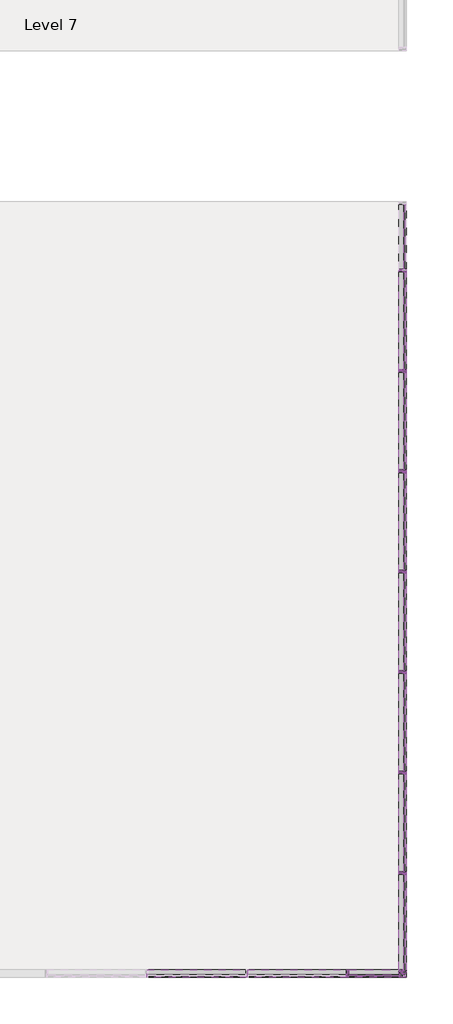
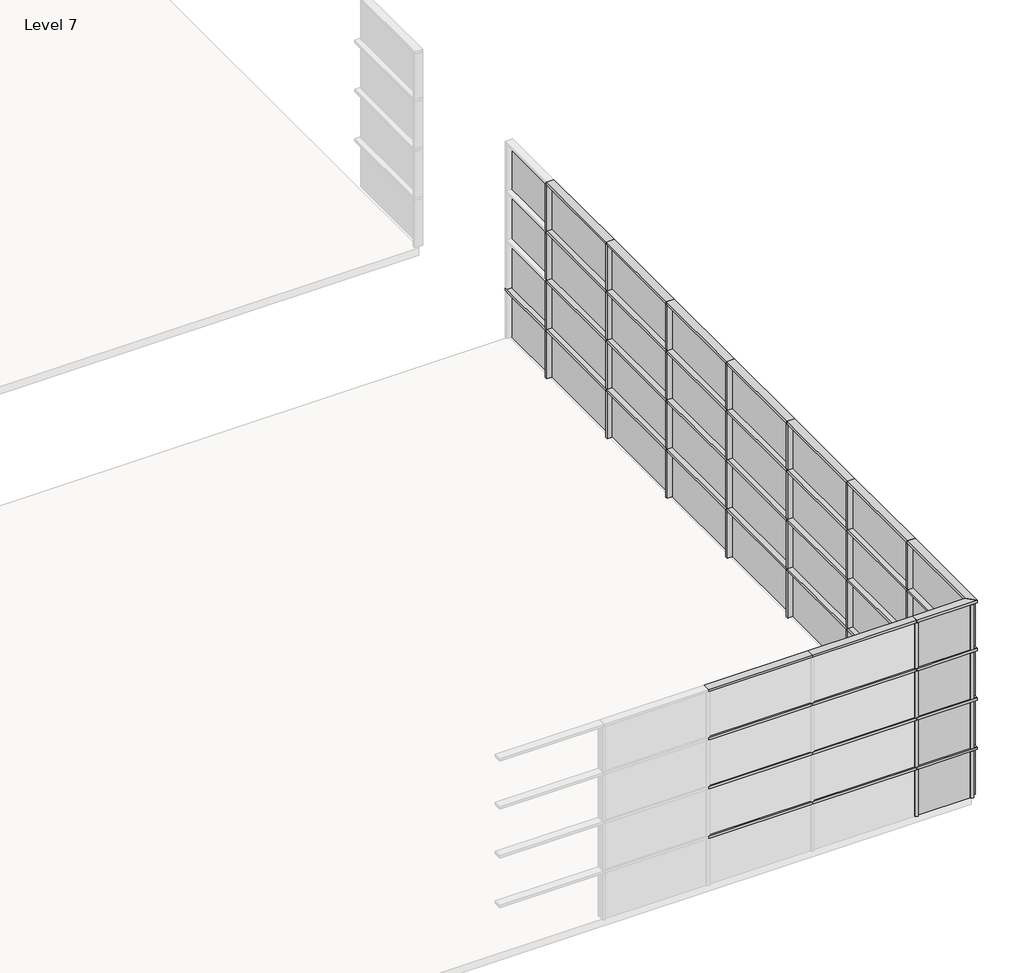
# One storey, part 3 of 5: 81 members, 36 plates.
"""IFC4 building model written with IfcOpenShell, lengths in millimetres."""

from ifc_helpers import new_model, si_unit, origin, place, context, project, spatial, transform, mapped, element, save
from components import rectangular_mullion_50_x_150mm_a053b0ca, rectangular_mullion_50_x_150mm_116cff39, rectangular_mullion_50_x_150mm_aa47fe12, rectangular_mullion_50_x_150mm_3a148f0f, rectangular_mullion_50_x_150mm_a91aaa2b, rectangular_mullion_50_x_150mm_12a430f9, rectangular_mullion_50_x_150mm_5fc4eb71, rectangular_mullion_50_x_150mm_98c2ab41, rectangular_mullion_50_x_150mm_947845bb, rectangular_mullion_50_x_150mm_f68fa77e, rectangular_mullion_50_x_150mm_274d1a55, system_panel_glazed_92d57a36, system_panel_glazed_751a585c, system_panel_glazed_28c32ad2, system_panel_glazed_08de6f5f, system_panel_glazed_5611fd39, system_panel_glazed_3987acf4, system_panel_glazed_42f259ca, system_panel_glazed_8ec8f306

model = new_model("IFC4")

# Units and contexts
model_context = context("Model", 3, world=origin())
ifc_project = project(units=[si_unit("LENGTHUNIT", "METRE", prefix="MILLI")], contexts=[model_context])

# Site, building, storey
site = spatial("IfcSite", under=ifc_project)
building = spatial("IfcBuilding", under=site)
storey = spatial("IfcBuildingStorey", under=building, Name="Level 7", Elevation=24000.0)

# Members
placement = place(None, origin())
rectangular_mullion_50_x_150mm_shape = rectangular_mullion_50_x_150mm_a053b0ca(model_context)
element("IfcMember", 1, ObjectType="Rectangular Mullion : 50 x 150mm", at=placement, inside=storey, context=model_context, shape_type="MappedRepresentation", body=[
    mapped(rectangular_mullion_50_x_150mm_shape, transform((12412.826594, -21988.7417365, 24025.0), x_axis=(1.0, 0.0, 0.0), y_axis=(0.0, -1.0, 0.0), z_axis=(0.0, 0.0, -0.9999999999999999))),
])
element("IfcMember", 2, ObjectType="Rectangular Mullion : 50 x 150mm", at=placement, inside=storey, context=model_context, shape_type="MappedRepresentation", body=[
    mapped(rectangular_mullion_50_x_150mm_shape, transform((12412.826594, -21988.7417365, 25025.0), x_axis=(1.0, 0.0, 0.0), y_axis=(0.0, -1.0, 0.0), z_axis=(0.0, 0.0, -0.9999999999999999))),
])
element("IfcMember", 3, ObjectType="Rectangular Mullion : 50 x 150mm", at=placement, inside=storey, context=model_context, shape_type="MappedRepresentation", body=[
    mapped(rectangular_mullion_50_x_150mm_shape, transform((12412.826594, -21988.7417365, 26025.0), x_axis=(1.0, 0.0, 0.0), y_axis=(0.0, -1.0, 0.0), z_axis=(0.0, 0.0, -0.9999999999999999))),
])
element("IfcMember", 4, ObjectType="Rectangular Mullion : 50 x 150mm", at=placement, inside=storey, context=model_context, shape_type="MappedRepresentation", body=[
    mapped(rectangular_mullion_50_x_150mm_shape, transform((13503.2660975, -13988.7417365, 24025.0), x_axis=(0.0, 1.0, 0.0), y_axis=(1.0, 0.0, 0.0), z_axis=(0.0, 0.0, -0.9999999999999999))),
])
element("IfcMember", 5, ObjectType="Rectangular Mullion : 50 x 150mm", at=placement, inside=storey, context=model_context, shape_type="MappedRepresentation", body=[
    mapped(rectangular_mullion_50_x_150mm_shape, transform((13503.2660975, -13988.7417365, 25025.0), x_axis=(0.0, 1.0, 0.0), y_axis=(1.0, 0.0, 0.0), z_axis=(0.0, 0.0, -0.9999999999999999))),
])
element("IfcMember", 6, ObjectType="Rectangular Mullion : 50 x 150mm", at=placement, inside=storey, context=model_context, shape_type="MappedRepresentation", body=[
    mapped(rectangular_mullion_50_x_150mm_shape, transform((13503.2660975, -13988.7417365, 26025.0), x_axis=(0.0, 1.0, 0.0), y_axis=(1.0, 0.0, 0.0), z_axis=(0.0, 0.0, -0.9999999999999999))),
])
element("IfcMember", 7, ObjectType="Rectangular Mullion : 50 x 150mm", at=placement, inside=storey, context=model_context, shape_type="MappedRepresentation", body=[
    mapped(rectangular_mullion_50_x_150mm_shape, transform((13503.2660975, -11988.7417365, 24025.0), x_axis=(0.0, 1.0, 0.0), y_axis=(1.0, 0.0, 0.0), z_axis=(0.0, 0.0, -0.9999999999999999))),
])
element("IfcMember", 8, ObjectType="Rectangular Mullion : 50 x 150mm", at=placement, inside=storey, context=model_context, shape_type="MappedRepresentation", body=[
    mapped(rectangular_mullion_50_x_150mm_shape, transform((13503.2660975, -11988.7417365, 25025.0), x_axis=(0.0, 1.0, 0.0), y_axis=(1.0, 0.0, 0.0), z_axis=(0.0, 0.0, -0.9999999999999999))),
])
element("IfcMember", 9, ObjectType="Rectangular Mullion : 50 x 150mm", at=placement, inside=storey, context=model_context, shape_type="MappedRepresentation", body=[
    mapped(rectangular_mullion_50_x_150mm_shape, transform((13503.2660975, -11988.7417365, 26025.0), x_axis=(0.0, 1.0, 0.0), y_axis=(1.0, 0.0, 0.0), z_axis=(0.0, 0.0, -0.9999999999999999))),
])
element("IfcMember", 10, ObjectType="Rectangular Mullion : 50 x 150mm", at=placement, inside=storey, context=model_context, shape_type="MappedRepresentation", body=[
    mapped(rectangular_mullion_50_x_150mm_shape, transform((13503.2660975, -9988.7417365, 24025.0), x_axis=(0.0, 1.0, 0.0), y_axis=(1.0, 0.0, 0.0), z_axis=(0.0, 0.0, -0.9999999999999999))),
])
element("IfcMember", 11, ObjectType="Rectangular Mullion : 50 x 150mm", at=placement, inside=storey, context=model_context, shape_type="MappedRepresentation", body=[
    mapped(rectangular_mullion_50_x_150mm_shape, transform((13503.2660975, -9988.7417365, 25025.0), x_axis=(0.0, 1.0, 0.0), y_axis=(1.0, 0.0, 0.0), z_axis=(0.0, 0.0, -0.9999999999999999))),
])
element("IfcMember", 12, ObjectType="Rectangular Mullion : 50 x 150mm", at=placement, inside=storey, context=model_context, shape_type="MappedRepresentation", body=[
    mapped(rectangular_mullion_50_x_150mm_shape, transform((13503.2660975, -9988.7417365, 26025.0), x_axis=(0.0, 1.0, 0.0), y_axis=(1.0, 0.0, 0.0), z_axis=(0.0, 0.0, -0.9999999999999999))),
])
element("IfcMember", 13, ObjectType="Rectangular Mullion : 50 x 150mm", at=placement, inside=storey, context=model_context, shape_type="MappedRepresentation", body=[
    mapped(rectangular_mullion_50_x_150mm_shape, transform((13503.2660975, -7988.7417365, 24025.0), x_axis=(0.0, 1.0, 0.0), y_axis=(1.0, 0.0, 0.0), z_axis=(0.0, 0.0, -0.9999999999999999))),
])
element("IfcMember", 14, ObjectType="Rectangular Mullion : 50 x 150mm", at=placement, inside=storey, context=model_context, shape_type="MappedRepresentation", body=[
    mapped(rectangular_mullion_50_x_150mm_shape, transform((13503.2660975, -7988.7417365, 25025.0), x_axis=(0.0, 1.0, 0.0), y_axis=(1.0, 0.0, 0.0), z_axis=(0.0, 0.0, -0.9999999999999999))),
])
element("IfcMember", 15, ObjectType="Rectangular Mullion : 50 x 150mm", at=placement, inside=storey, context=model_context, shape_type="MappedRepresentation", body=[
    mapped(rectangular_mullion_50_x_150mm_shape, transform((13503.2660975, -7988.7417365, 26025.0), x_axis=(0.0, 1.0, 0.0), y_axis=(1.0, 0.0, 0.0), z_axis=(0.0, 0.0, -0.9999999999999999))),
])
element("IfcMember", 16, ObjectType="Rectangular Mullion : 50 x 150mm", at=placement, inside=storey, context=model_context, shape_type="MappedRepresentation", body=[
    mapped(rectangular_mullion_50_x_150mm_shape, transform((13503.2660975, -19988.7417365, 24025.0), x_axis=(0.0, 1.0, 0.0), y_axis=(1.0, 0.0, 0.0), z_axis=(0.0, 0.0, -0.9999999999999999))),
])
element("IfcMember", 17, ObjectType="Rectangular Mullion : 50 x 150mm", at=placement, inside=storey, context=model_context, shape_type="MappedRepresentation", body=[
    mapped(rectangular_mullion_50_x_150mm_shape, transform((13503.2660975, -19988.7417365, 25025.0), x_axis=(0.0, 1.0, 0.0), y_axis=(1.0, 0.0, 0.0), z_axis=(0.0, 0.0, -0.9999999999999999))),
])
element("IfcMember", 18, ObjectType="Rectangular Mullion : 50 x 150mm", at=placement, inside=storey, context=model_context, shape_type="MappedRepresentation", body=[
    mapped(rectangular_mullion_50_x_150mm_shape, transform((13503.2660975, -17988.7417365, 24025.0), x_axis=(0.0, 1.0, 0.0), y_axis=(1.0, 0.0, 0.0), z_axis=(0.0, 0.0, -0.9999999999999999))),
])
element("IfcMember", 19, ObjectType="Rectangular Mullion : 50 x 150mm", at=placement, inside=storey, context=model_context, shape_type="MappedRepresentation", body=[
    mapped(rectangular_mullion_50_x_150mm_shape, transform((13503.2660975, -17988.7417365, 25025.0), x_axis=(0.0, 1.0, 0.0), y_axis=(1.0, 0.0, 0.0), z_axis=(0.0, 0.0, -0.9999999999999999))),
])
element("IfcMember", 20, ObjectType="Rectangular Mullion : 50 x 150mm", at=placement, inside=storey, context=model_context, shape_type="MappedRepresentation", body=[
    mapped(rectangular_mullion_50_x_150mm_shape, transform((13503.2660975, -17988.7417365, 26025.0), x_axis=(0.0, 1.0, 0.0), y_axis=(1.0, 0.0, 0.0), z_axis=(0.0, 0.0, -0.9999999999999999))),
])
element("IfcMember", 21, ObjectType="Rectangular Mullion : 50 x 150mm", at=placement, inside=storey, context=model_context, shape_type="MappedRepresentation", body=[
    mapped(rectangular_mullion_50_x_150mm_shape, transform((13503.2660975, -15988.7417365, 24025.0), x_axis=(0.0, 1.0, 0.0), y_axis=(1.0, 0.0, 0.0), z_axis=(0.0, 0.0, -0.9999999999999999))),
])
element("IfcMember", 22, ObjectType="Rectangular Mullion : 50 x 150mm", at=placement, inside=storey, context=model_context, shape_type="MappedRepresentation", body=[
    mapped(rectangular_mullion_50_x_150mm_shape, transform((13503.2660975, -15988.7417365, 25025.0), x_axis=(0.0, 1.0, 0.0), y_axis=(1.0, 0.0, 0.0), z_axis=(0.0, 0.0, -0.9999999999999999))),
])
element("IfcMember", 23, ObjectType="Rectangular Mullion : 50 x 150mm", at=placement, inside=storey, context=model_context, shape_type="MappedRepresentation", body=[
    mapped(rectangular_mullion_50_x_150mm_shape, transform((13503.2660975, -15988.7417365, 26025.0), x_axis=(0.0, 1.0, 0.0), y_axis=(1.0, 0.0, 0.0), z_axis=(0.0, 0.0, -0.9999999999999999))),
])
element("IfcMember", 24, ObjectType="Rectangular Mullion : 50 x 150mm", at=placement, inside=storey, context=model_context, shape_type="MappedRepresentation", body=[
    mapped(rectangular_mullion_50_x_150mm_shape, transform((13503.2660975, -19988.7417365, 26025.0), x_axis=(0.0, 1.0, 0.0), y_axis=(1.0, 0.0, 0.0), z_axis=(0.0, 0.0, -0.9999999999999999))),
])
rectangular_mullion_50_x_150mm_2_shape = rectangular_mullion_50_x_150mm_116cff39(model_context)
element("IfcMember", 25, ObjectType="Rectangular Mullion : 50 x 150mm", at=placement, inside=storey, context=model_context, shape_type="MappedRepresentation", body=[
    mapped(rectangular_mullion_50_x_150mm_2_shape, transform((12412.826594, -21988.7417365, 27025.0), x_axis=(1.0, 0.0, 0.0), y_axis=(0.0, -1.0, 0.0), z_axis=(0.0, 0.0, -1.0))),
])
element("IfcMember", 26, ObjectType="Rectangular Mullion : 50 x 150mm", at=placement, inside=storey, context=model_context, shape_type="MappedRepresentation", body=[
    mapped(rectangular_mullion_50_x_150mm_2_shape, transform((13503.2660975, -13988.7417365, 27025.0), x_axis=(0.0, 1.0, 0.0), y_axis=(1.0, 0.0, 0.0), z_axis=(0.0, 0.0, -1.0))),
])
element("IfcMember", 27, ObjectType="Rectangular Mullion : 50 x 150mm", at=placement, inside=storey, context=model_context, shape_type="MappedRepresentation", body=[
    mapped(rectangular_mullion_50_x_150mm_2_shape, transform((13503.2660975, -11988.7417365, 27025.0), x_axis=(0.0, 1.0, 0.0), y_axis=(1.0, 0.0, 0.0), z_axis=(0.0, 0.0, -1.0))),
])
element("IfcMember", 28, ObjectType="Rectangular Mullion : 50 x 150mm", at=placement, inside=storey, context=model_context, shape_type="MappedRepresentation", body=[
    mapped(rectangular_mullion_50_x_150mm_2_shape, transform((13503.2660975, -9988.7417365, 27025.0), x_axis=(0.0, 1.0, 0.0), y_axis=(1.0, 0.0, 0.0), z_axis=(0.0, 0.0, -1.0))),
])
element("IfcMember", 29, ObjectType="Rectangular Mullion : 50 x 150mm", at=placement, inside=storey, context=model_context, shape_type="MappedRepresentation", body=[
    mapped(rectangular_mullion_50_x_150mm_2_shape, transform((13503.2660975, -7988.7417365, 27025.0), x_axis=(0.0, 1.0, 0.0), y_axis=(1.0, 0.0, 0.0), z_axis=(0.0, 0.0, -1.0))),
])
element("IfcMember", 30, ObjectType="Rectangular Mullion : 50 x 150mm", at=placement, inside=storey, context=model_context, shape_type="MappedRepresentation", body=[
    mapped(rectangular_mullion_50_x_150mm_2_shape, transform((13503.2660975, -17988.7417365, 27025.0), x_axis=(0.0, 1.0, 0.0), y_axis=(1.0, 0.0, 0.0), z_axis=(0.0, 0.0, -1.0))),
])
element("IfcMember", 31, ObjectType="Rectangular Mullion : 50 x 150mm", at=placement, inside=storey, context=model_context, shape_type="MappedRepresentation", body=[
    mapped(rectangular_mullion_50_x_150mm_2_shape, transform((13503.2660975, -15988.7417365, 27025.0), x_axis=(0.0, 1.0, 0.0), y_axis=(1.0, 0.0, 0.0), z_axis=(0.0, 0.0, -1.0))),
])
element("IfcMember", 32, ObjectType="Rectangular Mullion : 50 x 150mm", at=placement, inside=storey, context=model_context, shape_type="MappedRepresentation", body=[
    mapped(rectangular_mullion_50_x_150mm_2_shape, transform((13503.2660975, -19988.7417365, 27025.0), x_axis=(0.0, 1.0, 0.0), y_axis=(1.0, 0.0, 0.0), z_axis=(0.0, 0.0, -1.0))),
])
rectangular_mullion_50_x_150mm_3_shape = rectangular_mullion_50_x_150mm_aa47fe12(model_context)
element("IfcMember", 33, ObjectType="Rectangular Mullion : 50 x 150mm", at=placement, inside=storey, context=model_context, shape_type="MappedRepresentation", body=[
    mapped(rectangular_mullion_50_x_150mm_3_shape, transform((10412.826594, -21988.7417365, 28000.0), x_axis=(0.0, 0.0, 1.0), y_axis=(0.0, -1.0, 0.0), z_axis=(1.0, 0.0, 0.0))),
])
element("IfcMember", 34, ObjectType="Rectangular Mullion : 50 x 150mm", at=placement, inside=storey, context=model_context, shape_type="MappedRepresentation", body=[
    mapped(rectangular_mullion_50_x_150mm_3_shape, transform((12412.826594, -21988.7417365, 28000.0), x_axis=(0.0, 0.0, 1.0), y_axis=(0.0, -1.0, 0.0), z_axis=(1.0, 0.0, 0.0))),
])
element("IfcMember", 35, ObjectType="Rectangular Mullion : 50 x 150mm", at=placement, inside=storey, context=model_context, shape_type="MappedRepresentation", body=[
    mapped(rectangular_mullion_50_x_150mm_3_shape, transform((13503.2660975, -17988.7417365, 28000.0), x_axis=(0.0, 0.0, 1.0), y_axis=(1.0, 0.0, 0.0), z_axis=(0.0, 1.0, 0.0))),
])
element("IfcMember", 36, ObjectType="Rectangular Mullion : 50 x 150mm", at=placement, inside=storey, context=model_context, shape_type="MappedRepresentation", body=[
    mapped(rectangular_mullion_50_x_150mm_3_shape, transform((13503.2660975, -15988.7417365, 28000.0), x_axis=(0.0, 0.0, 1.0), y_axis=(1.0, 0.0, 0.0), z_axis=(0.0, 1.0, 0.0))),
])
element("IfcMember", 37, ObjectType="Rectangular Mullion : 50 x 150mm", at=placement, inside=storey, context=model_context, shape_type="MappedRepresentation", body=[
    mapped(rectangular_mullion_50_x_150mm_3_shape, transform((13503.2660975, -13988.7417365, 28000.0), x_axis=(0.0, 0.0, 1.0), y_axis=(1.0, 0.0, 0.0), z_axis=(0.0, 1.0, 0.0))),
])
element("IfcMember", 38, ObjectType="Rectangular Mullion : 50 x 150mm", at=placement, inside=storey, context=model_context, shape_type="MappedRepresentation", body=[
    mapped(rectangular_mullion_50_x_150mm_3_shape, transform((13503.2660975, -11988.7417365, 28000.0), x_axis=(0.0, 0.0, 1.0), y_axis=(1.0, 0.0, 0.0), z_axis=(0.0, 1.0, 0.0))),
])
element("IfcMember", 39, ObjectType="Rectangular Mullion : 50 x 150mm", at=placement, inside=storey, context=model_context, shape_type="MappedRepresentation", body=[
    mapped(rectangular_mullion_50_x_150mm_3_shape, transform((13503.2660975, -9988.7417365, 28000.0), x_axis=(0.0, 0.0, 1.0), y_axis=(1.0, 0.0, 0.0), z_axis=(0.0, 1.0, 0.0))),
])
element("IfcMember", 40, ObjectType="Rectangular Mullion : 50 x 150mm", at=placement, inside=storey, context=model_context, shape_type="MappedRepresentation", body=[
    mapped(rectangular_mullion_50_x_150mm_3_shape, transform((13503.2660975, -7988.7417365, 28000.0), x_axis=(0.0, 0.0, 1.0), y_axis=(1.0, 0.0, 0.0), z_axis=(0.0, 1.0, 0.0))),
])
rectangular_mullion_50_x_150mm_4_shape = rectangular_mullion_50_x_150mm_3a148f0f(model_context)
element("IfcMember", 41, ObjectType="Rectangular Mullion : 50 x 150mm", at=placement, inside=storey, context=model_context, shape_type="MappedRepresentation", body=[
    mapped(rectangular_mullion_50_x_150mm_4_shape, transform((10412.826594, -21988.7417365, 25000.0), x_axis=(0.0, 0.0, 1.0), y_axis=(0.0, -1.0, 0.0), z_axis=(1.0, 0.0, 0.0))),
])
element("IfcMember", 42, ObjectType="Rectangular Mullion : 50 x 150mm", at=placement, inside=storey, context=model_context, shape_type="MappedRepresentation", body=[
    mapped(rectangular_mullion_50_x_150mm_4_shape, transform((12412.826594, -21988.7417365, 25000.0), x_axis=(0.0, 0.0, 1.0), y_axis=(0.0, -1.0, 0.0), z_axis=(1.0, 0.0, 0.0))),
])
element("IfcMember", 43, ObjectType="Rectangular Mullion : 50 x 150mm", at=placement, inside=storey, context=model_context, shape_type="MappedRepresentation", body=[
    mapped(rectangular_mullion_50_x_150mm_4_shape, transform((10412.826594, -21988.7417365, 26000.0), x_axis=(0.0, 0.0, 1.0), y_axis=(0.0, -1.0, 0.0), z_axis=(1.0, 0.0, 0.0))),
])
element("IfcMember", 44, ObjectType="Rectangular Mullion : 50 x 150mm", at=placement, inside=storey, context=model_context, shape_type="MappedRepresentation", body=[
    mapped(rectangular_mullion_50_x_150mm_4_shape, transform((12412.826594, -21988.7417365, 26000.0), x_axis=(0.0, 0.0, 1.0), y_axis=(0.0, -1.0, 0.0), z_axis=(1.0, 0.0, 0.0))),
])
element("IfcMember", 45, ObjectType="Rectangular Mullion : 50 x 150mm", at=placement, inside=storey, context=model_context, shape_type="MappedRepresentation", body=[
    mapped(rectangular_mullion_50_x_150mm_4_shape, transform((10412.826594, -21988.7417365, 27000.0), x_axis=(0.0, 0.0, 1.0), y_axis=(0.0, -1.0, 0.0), z_axis=(1.0, 0.0, 0.0))),
])
element("IfcMember", 46, ObjectType="Rectangular Mullion : 50 x 150mm", at=placement, inside=storey, context=model_context, shape_type="MappedRepresentation", body=[
    mapped(rectangular_mullion_50_x_150mm_4_shape, transform((12412.826594, -21988.7417365, 27000.0), x_axis=(0.0, 0.0, 1.0), y_axis=(0.0, -1.0, 0.0), z_axis=(1.0, 0.0, 0.0))),
])
element("IfcMember", 47, ObjectType="Rectangular Mullion : 50 x 150mm", at=placement, inside=storey, context=model_context, shape_type="MappedRepresentation", body=[
    mapped(rectangular_mullion_50_x_150mm_4_shape, transform((13503.2660975, -17988.7417365, 25000.0), x_axis=(0.0, 0.0, 1.0), y_axis=(1.0, 0.0, 0.0), z_axis=(0.0, 1.0, 0.0))),
])
element("IfcMember", 48, ObjectType="Rectangular Mullion : 50 x 150mm", at=placement, inside=storey, context=model_context, shape_type="MappedRepresentation", body=[
    mapped(rectangular_mullion_50_x_150mm_4_shape, transform((13503.2660975, -15988.7417365, 25000.0), x_axis=(0.0, 0.0, 1.0), y_axis=(1.0, 0.0, 0.0), z_axis=(0.0, 1.0, 0.0))),
])
element("IfcMember", 49, ObjectType="Rectangular Mullion : 50 x 150mm", at=placement, inside=storey, context=model_context, shape_type="MappedRepresentation", body=[
    mapped(rectangular_mullion_50_x_150mm_4_shape, transform((13503.2660975, -13988.7417365, 25000.0), x_axis=(0.0, 0.0, 1.0), y_axis=(1.0, 0.0, 0.0), z_axis=(0.0, 1.0, 0.0))),
])
element("IfcMember", 50, ObjectType="Rectangular Mullion : 50 x 150mm", at=placement, inside=storey, context=model_context, shape_type="MappedRepresentation", body=[
    mapped(rectangular_mullion_50_x_150mm_4_shape, transform((13503.2660975, -11988.7417365, 25000.0), x_axis=(0.0, 0.0, 1.0), y_axis=(1.0, 0.0, 0.0), z_axis=(0.0, 1.0, 0.0))),
])
element("IfcMember", 51, ObjectType="Rectangular Mullion : 50 x 150mm", at=placement, inside=storey, context=model_context, shape_type="MappedRepresentation", body=[
    mapped(rectangular_mullion_50_x_150mm_4_shape, transform((13503.2660975, -9988.7417365, 25000.0), x_axis=(0.0, 0.0, 1.0), y_axis=(1.0, 0.0, 0.0), z_axis=(0.0, 1.0, 0.0))),
])
element("IfcMember", 52, ObjectType="Rectangular Mullion : 50 x 150mm", at=placement, inside=storey, context=model_context, shape_type="MappedRepresentation", body=[
    mapped(rectangular_mullion_50_x_150mm_4_shape, transform((13503.2660975, -7988.7417365, 25000.0), x_axis=(0.0, 0.0, 1.0), y_axis=(1.0, 0.0, 0.0), z_axis=(0.0, 1.0, 0.0))),
])
element("IfcMember", 53, ObjectType="Rectangular Mullion : 50 x 150mm", at=placement, inside=storey, context=model_context, shape_type="MappedRepresentation", body=[
    mapped(rectangular_mullion_50_x_150mm_4_shape, transform((13503.2660975, -17988.7417365, 26000.0), x_axis=(0.0, 0.0, 1.0), y_axis=(1.0, 0.0, 0.0), z_axis=(0.0, 1.0, 0.0))),
])
element("IfcMember", 54, ObjectType="Rectangular Mullion : 50 x 150mm", at=placement, inside=storey, context=model_context, shape_type="MappedRepresentation", body=[
    mapped(rectangular_mullion_50_x_150mm_4_shape, transform((13503.2660975, -15988.7417365, 26000.0), x_axis=(0.0, 0.0, 1.0), y_axis=(1.0, 0.0, 0.0), z_axis=(0.0, 1.0, 0.0))),
])
element("IfcMember", 55, ObjectType="Rectangular Mullion : 50 x 150mm", at=placement, inside=storey, context=model_context, shape_type="MappedRepresentation", body=[
    mapped(rectangular_mullion_50_x_150mm_4_shape, transform((13503.2660975, -13988.7417365, 26000.0), x_axis=(0.0, 0.0, 1.0), y_axis=(1.0, 0.0, 0.0), z_axis=(0.0, 1.0, 0.0))),
])
element("IfcMember", 56, ObjectType="Rectangular Mullion : 50 x 150mm", at=placement, inside=storey, context=model_context, shape_type="MappedRepresentation", body=[
    mapped(rectangular_mullion_50_x_150mm_4_shape, transform((13503.2660975, -11988.7417365, 26000.0), x_axis=(0.0, 0.0, 1.0), y_axis=(1.0, 0.0, 0.0), z_axis=(0.0, 1.0, 0.0))),
])
element("IfcMember", 57, ObjectType="Rectangular Mullion : 50 x 150mm", at=placement, inside=storey, context=model_context, shape_type="MappedRepresentation", body=[
    mapped(rectangular_mullion_50_x_150mm_4_shape, transform((13503.2660975, -9988.7417365, 26000.0), x_axis=(0.0, 0.0, 1.0), y_axis=(1.0, 0.0, 0.0), z_axis=(0.0, 1.0, 0.0))),
])
element("IfcMember", 58, ObjectType="Rectangular Mullion : 50 x 150mm", at=placement, inside=storey, context=model_context, shape_type="MappedRepresentation", body=[
    mapped(rectangular_mullion_50_x_150mm_4_shape, transform((13503.2660975, -7988.7417365, 26000.0), x_axis=(0.0, 0.0, 1.0), y_axis=(1.0, 0.0, 0.0), z_axis=(0.0, 1.0, 0.0))),
])
element("IfcMember", 59, ObjectType="Rectangular Mullion : 50 x 150mm", at=placement, inside=storey, context=model_context, shape_type="MappedRepresentation", body=[
    mapped(rectangular_mullion_50_x_150mm_4_shape, transform((13503.2660975, -17988.7417365, 27000.0), x_axis=(0.0, 0.0, 1.0), y_axis=(1.0, 0.0, 0.0), z_axis=(0.0, 1.0, 0.0))),
])
element("IfcMember", 60, ObjectType="Rectangular Mullion : 50 x 150mm", at=placement, inside=storey, context=model_context, shape_type="MappedRepresentation", body=[
    mapped(rectangular_mullion_50_x_150mm_4_shape, transform((13503.2660975, -15988.7417365, 27000.0), x_axis=(0.0, 0.0, 1.0), y_axis=(1.0, 0.0, 0.0), z_axis=(0.0, 1.0, 0.0))),
])
element("IfcMember", 61, ObjectType="Rectangular Mullion : 50 x 150mm", at=placement, inside=storey, context=model_context, shape_type="MappedRepresentation", body=[
    mapped(rectangular_mullion_50_x_150mm_4_shape, transform((13503.2660975, -13988.7417365, 27000.0), x_axis=(0.0, 0.0, 1.0), y_axis=(1.0, 0.0, 0.0), z_axis=(0.0, 1.0, 0.0))),
])
element("IfcMember", 62, ObjectType="Rectangular Mullion : 50 x 150mm", at=placement, inside=storey, context=model_context, shape_type="MappedRepresentation", body=[
    mapped(rectangular_mullion_50_x_150mm_4_shape, transform((13503.2660975, -11988.7417365, 27000.0), x_axis=(0.0, 0.0, 1.0), y_axis=(1.0, 0.0, 0.0), z_axis=(0.0, 1.0, 0.0))),
])
element("IfcMember", 63, ObjectType="Rectangular Mullion : 50 x 150mm", at=placement, inside=storey, context=model_context, shape_type="MappedRepresentation", body=[
    mapped(rectangular_mullion_50_x_150mm_4_shape, transform((13503.2660975, -9988.7417365, 27000.0), x_axis=(0.0, 0.0, 1.0), y_axis=(1.0, 0.0, 0.0), z_axis=(0.0, 1.0, 0.0))),
])
element("IfcMember", 64, ObjectType="Rectangular Mullion : 50 x 150mm", at=placement, inside=storey, context=model_context, shape_type="MappedRepresentation", body=[
    mapped(rectangular_mullion_50_x_150mm_4_shape, transform((13503.2660975, -7988.7417365, 27000.0), x_axis=(0.0, 0.0, 1.0), y_axis=(1.0, 0.0, 0.0), z_axis=(0.0, 1.0, 0.0))),
])
rectangular_mullion_50_x_150mm_5_shape = rectangular_mullion_50_x_150mm_a91aaa2b(model_context)
element("IfcMember", 65, ObjectType="Rectangular Mullion : 50 x 150mm", at=placement, inside=storey, context=model_context, shape_type="MappedRepresentation", body=[
    mapped(rectangular_mullion_50_x_150mm_5_shape, transform((13503.2660975, -21988.7417365, 27950.0), x_axis=(0.0, -1.0, 0.0), y_axis=(1.0, 0.0, 0.0), z_axis=(0.0, 0.0, 1.0))),
])
rectangular_mullion_50_x_150mm_6_shape = rectangular_mullion_50_x_150mm_12a430f9(model_context)
element("IfcMember", 66, ObjectType="Rectangular Mullion : 50 x 150mm", at=placement, inside=storey, context=model_context, shape_type="MappedRepresentation", body=[
    mapped(rectangular_mullion_50_x_150mm_6_shape, transform((13503.2660975, -21988.7417365, 24975.0), x_axis=(0.0, -1.0, 0.0), y_axis=(1.0, 0.0, 0.0), z_axis=(0.0, 0.0, 0.9999999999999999))),
])
element("IfcMember", 67, ObjectType="Rectangular Mullion : 50 x 150mm", at=placement, inside=storey, context=model_context, shape_type="MappedRepresentation", body=[
    mapped(rectangular_mullion_50_x_150mm_6_shape, transform((13503.2660975, -21988.7417365, 25975.0), x_axis=(0.0, -1.0, 0.0), y_axis=(1.0, 0.0, 0.0), z_axis=(0.0, 0.0, 0.9999999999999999))),
])
element("IfcMember", 68, ObjectType="Rectangular Mullion : 50 x 150mm", at=placement, inside=storey, context=model_context, shape_type="MappedRepresentation", body=[
    mapped(rectangular_mullion_50_x_150mm_6_shape, transform((13503.2660975, -21988.7417365, 26975.0), x_axis=(0.0, -1.0, 0.0), y_axis=(1.0, 0.0, 0.0), z_axis=(0.0, 0.0, 0.9999999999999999))),
])
element("IfcMember", 69, ObjectType="Rectangular Mullion : 50 x 150mm", at=placement, inside=storey, context=model_context, shape_type="MappedRepresentation", body=[
    mapped(rectangular_mullion_50_x_150mm_6_shape, transform((13503.2660975, -21988.7417365, 24025.0), x_axis=(1.0, 0.0, 0.0), y_axis=(0.0, -1.0, 0.0), z_axis=(0.0, 0.0, -0.9999999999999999))),
])
element("IfcMember", 70, ObjectType="Rectangular Mullion : 50 x 150mm", at=placement, inside=storey, context=model_context, shape_type="MappedRepresentation", body=[
    mapped(rectangular_mullion_50_x_150mm_6_shape, transform((13503.2660975, -21988.7417365, 25025.0), x_axis=(1.0, 0.0, 0.0), y_axis=(0.0, -1.0, 0.0), z_axis=(0.0, 0.0, -0.9999999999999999))),
])
element("IfcMember", 71, ObjectType="Rectangular Mullion : 50 x 150mm", at=placement, inside=storey, context=model_context, shape_type="MappedRepresentation", body=[
    mapped(rectangular_mullion_50_x_150mm_6_shape, transform((13503.2660975, -21988.7417365, 26025.0), x_axis=(1.0, 0.0, 0.0), y_axis=(0.0, -1.0, 0.0), z_axis=(0.0, 0.0, -0.9999999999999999))),
])
element("IfcMember", 72, ObjectType="Rectangular Mullion : 50 x 150mm", at=placement, inside=storey, context=model_context, shape_type="MappedRepresentation", body=[
    mapped(rectangular_mullion_50_x_150mm_5_shape, transform((13503.2660975, -21988.7417365, 27025.0), x_axis=(1.0, 0.0, 0.0), y_axis=(0.0, -1.0, 0.0), z_axis=(0.0, 0.0, -1.0))),
])
rectangular_mullion_50_x_150mm_7_shape = rectangular_mullion_50_x_150mm_5fc4eb71(model_context)
element("IfcMember", 73, ObjectType="Rectangular Mullion : 50 x 150mm", at=placement, inside=storey, context=model_context, shape_type="MappedRepresentation", body=[
    mapped(rectangular_mullion_50_x_150mm_7_shape, transform((13503.2660975, -6624.0160434, 25000.0), x_axis=(0.0, 0.0, 1.0), y_axis=(1.0, 0.0, 0.0), z_axis=(0.0, 1.0, 0.0))),
])
rectangular_mullion_50_x_150mm_8_shape = rectangular_mullion_50_x_150mm_98c2ab41(model_context)
element("IfcMember", 74, ObjectType="Rectangular Mullion : 50 x 150mm", at=placement, inside=storey, context=model_context, shape_type="MappedRepresentation", body=[
    mapped(rectangular_mullion_50_x_150mm_8_shape, transform((13503.2660975, -19988.7417365, 28000.0), x_axis=(0.0, 0.0, 1.0), y_axis=(1.0, 0.0, 0.0), z_axis=(0.0, 1.0, 0.0))),
])
rectangular_mullion_50_x_150mm_9_shape = rectangular_mullion_50_x_150mm_947845bb(model_context)
element("IfcMember", 75, ObjectType="Rectangular Mullion : 50 x 150mm", at=placement, inside=storey, context=model_context, shape_type="MappedRepresentation", body=[
    mapped(rectangular_mullion_50_x_150mm_9_shape, transform((13503.2660975, -19988.7417365, 25000.0), x_axis=(0.0, 0.0, 1.0), y_axis=(1.0, 0.0, 0.0), z_axis=(0.0, 1.0, 0.0))),
])
element("IfcMember", 76, ObjectType="Rectangular Mullion : 50 x 150mm", at=placement, inside=storey, context=model_context, shape_type="MappedRepresentation", body=[
    mapped(rectangular_mullion_50_x_150mm_9_shape, transform((13503.2660975, -19988.7417365, 26000.0), x_axis=(0.0, 0.0, 1.0), y_axis=(1.0, 0.0, 0.0), z_axis=(0.0, 1.0, 0.0))),
])
element("IfcMember", 77, ObjectType="Rectangular Mullion : 50 x 150mm", at=placement, inside=storey, context=model_context, shape_type="MappedRepresentation", body=[
    mapped(rectangular_mullion_50_x_150mm_9_shape, transform((13503.2660975, -19988.7417365, 27000.0), x_axis=(0.0, 0.0, 1.0), y_axis=(1.0, 0.0, 0.0), z_axis=(0.0, 1.0, 0.0))),
])
rectangular_mullion_50_x_150mm_10_shape = rectangular_mullion_50_x_150mm_f68fa77e(model_context)
element("IfcMember", 78, ObjectType="Rectangular Mullion : 50 x 150mm", at=placement, inside=storey, context=model_context, shape_type="MappedRepresentation", body=[
    mapped(rectangular_mullion_50_x_150mm_10_shape, transform((13503.2660975, -21988.7417365, 25000.0), x_axis=(0.0, 0.0, 1.0), y_axis=(0.0, -1.0, 0.0), z_axis=(0.9999999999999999, 0.0, 0.0))),
])
element("IfcMember", 79, ObjectType="Rectangular Mullion : 50 x 150mm", at=placement, inside=storey, context=model_context, shape_type="MappedRepresentation", body=[
    mapped(rectangular_mullion_50_x_150mm_10_shape, transform((13503.2660975, -21988.7417365, 26000.0), x_axis=(0.0, 0.0, 1.0), y_axis=(0.0, -1.0, 0.0), z_axis=(0.9999999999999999, 0.0, 0.0))),
])
element("IfcMember", 80, ObjectType="Rectangular Mullion : 50 x 150mm", at=placement, inside=storey, context=model_context, shape_type="MappedRepresentation", body=[
    mapped(rectangular_mullion_50_x_150mm_10_shape, transform((13503.2660975, -21988.7417365, 27000.0), x_axis=(0.0, 0.0, 1.0), y_axis=(0.0, -1.0, 0.0), z_axis=(0.9999999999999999, 0.0, 0.0))),
])
rectangular_mullion_50_x_150mm_11_shape = rectangular_mullion_50_x_150mm_274d1a55(model_context)
element("IfcMember", 81, ObjectType="Rectangular Mullion : 50 x 150mm", at=placement, inside=storey, context=model_context, shape_type="MappedRepresentation", body=[
    mapped(rectangular_mullion_50_x_150mm_11_shape, transform((13503.2660975, -21988.7417365, 28000.0), x_axis=(0.0, 0.0, 1.0), y_axis=(0.0, -1.0, 0.0), z_axis=(0.9999999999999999, 0.0, 0.0))),
])

# Plates
system_panel_glazed_shape = system_panel_glazed_92d57a36(model_context)
element("IfcPlate", 82, ObjectType="System Panel : Glazed", at=placement, inside=storey, context=model_context, shape_type="MappedRepresentation", body=[
    mapped(system_panel_glazed_shape, transform((13503.2660975, -21938.7417365, 27487.5), x_axis=(0.0, 0.0, 1.0), y_axis=(1.0, 0.0, 0.0), z_axis=(0.0, 1.0, 0.0))),
])
system_panel_glazed_2_shape = system_panel_glazed_751a585c(model_context)
element("IfcPlate", 83, ObjectType="System Panel : Glazed", at=placement, inside=storey, context=model_context, shape_type="MappedRepresentation", body=[
    mapped(system_panel_glazed_2_shape, transform((13503.2660975, -21938.7417365, 24500.0), x_axis=(0.0, 0.0, 1.0), y_axis=(1.0, 0.0, 0.0), z_axis=(0.0, 1.0, 0.0))),
])
element("IfcPlate", 84, ObjectType="System Panel : Glazed", at=placement, inside=storey, context=model_context, shape_type="MappedRepresentation", body=[
    mapped(system_panel_glazed_2_shape, transform((13503.2660975, -21938.7417365, 25500.0), x_axis=(0.0, 0.0, 1.0), y_axis=(1.0, 0.0, 0.0), z_axis=(0.0, 1.0, 0.0))),
])
element("IfcPlate", 85, ObjectType="System Panel : Glazed", at=placement, inside=storey, context=model_context, shape_type="MappedRepresentation", body=[
    mapped(system_panel_glazed_2_shape, transform((13503.2660975, -21938.7417365, 26500.0), x_axis=(0.0, 0.0, 1.0), y_axis=(1.0, 0.0, 0.0), z_axis=(0.0, 1.0, 0.0))),
])
system_panel_glazed_3_shape = system_panel_glazed_28c32ad2(model_context)
element("IfcPlate", 86, ObjectType="System Panel : Glazed", at=placement, inside=storey, context=model_context, shape_type="MappedRepresentation", body=[
    mapped(system_panel_glazed_3_shape, transform((13503.2660975, -19963.7417365, 27487.5), x_axis=(0.0, 0.0, 1.0), y_axis=(1.0, 0.0, 0.0), z_axis=(0.0, 1.0, 0.0))),
])
element("IfcPlate", 87, ObjectType="System Panel : Glazed", at=placement, inside=storey, context=model_context, shape_type="MappedRepresentation", body=[
    mapped(system_panel_glazed_3_shape, transform((13503.2660975, -17963.7417365, 27487.5), x_axis=(0.0, 0.0, 1.0), y_axis=(1.0, 0.0, 0.0), z_axis=(0.0, 1.0, 0.0))),
])
element("IfcPlate", 88, ObjectType="System Panel : Glazed", at=placement, inside=storey, context=model_context, shape_type="MappedRepresentation", body=[
    mapped(system_panel_glazed_3_shape, transform((13503.2660975, -15963.7417365, 27487.5), x_axis=(0.0, 0.0, 1.0), y_axis=(1.0, 0.0, 0.0), z_axis=(0.0, 1.0, 0.0))),
])
element("IfcPlate", 89, ObjectType="System Panel : Glazed", at=placement, inside=storey, context=model_context, shape_type="MappedRepresentation", body=[
    mapped(system_panel_glazed_3_shape, transform((13503.2660975, -13963.7417365, 27487.5), x_axis=(0.0, 0.0, 1.0), y_axis=(1.0, 0.0, 0.0), z_axis=(0.0, 1.0, 0.0))),
])
element("IfcPlate", 90, ObjectType="System Panel : Glazed", at=placement, inside=storey, context=model_context, shape_type="MappedRepresentation", body=[
    mapped(system_panel_glazed_3_shape, transform((13503.2660975, -11963.7417365, 27487.5), x_axis=(0.0, 0.0, 1.0), y_axis=(1.0, 0.0, 0.0), z_axis=(0.0, 1.0, 0.0))),
])
element("IfcPlate", 91, ObjectType="System Panel : Glazed", at=placement, inside=storey, context=model_context, shape_type="MappedRepresentation", body=[
    mapped(system_panel_glazed_3_shape, transform((13503.2660975, -9963.7417365, 27487.5), x_axis=(0.0, 0.0, 1.0), y_axis=(1.0, 0.0, 0.0), z_axis=(0.0, 1.0, 0.0))),
])
system_panel_glazed_4_shape = system_panel_glazed_08de6f5f(model_context)
element("IfcPlate", 92, ObjectType="System Panel : Glazed", at=placement, inside=storey, context=model_context, shape_type="MappedRepresentation", body=[
    mapped(system_panel_glazed_4_shape, transform((13503.2660975, -19963.7417365, 24500.0), x_axis=(0.0, 0.0, 1.0), y_axis=(1.0, 0.0, 0.0), z_axis=(0.0, 1.0, 0.0))),
])
element("IfcPlate", 93, ObjectType="System Panel : Glazed", at=placement, inside=storey, context=model_context, shape_type="MappedRepresentation", body=[
    mapped(system_panel_glazed_4_shape, transform((13503.2660975, -17963.7417365, 24500.0), x_axis=(0.0, 0.0, 1.0), y_axis=(1.0, 0.0, 0.0), z_axis=(0.0, 1.0, 0.0))),
])
element("IfcPlate", 94, ObjectType="System Panel : Glazed", at=placement, inside=storey, context=model_context, shape_type="MappedRepresentation", body=[
    mapped(system_panel_glazed_4_shape, transform((13503.2660975, -15963.7417365, 24500.0), x_axis=(0.0, 0.0, 1.0), y_axis=(1.0, 0.0, 0.0), z_axis=(0.0, 1.0, 0.0))),
])
element("IfcPlate", 95, ObjectType="System Panel : Glazed", at=placement, inside=storey, context=model_context, shape_type="MappedRepresentation", body=[
    mapped(system_panel_glazed_4_shape, transform((13503.2660975, -13963.7417365, 24500.0), x_axis=(0.0, 0.0, 1.0), y_axis=(1.0, 0.0, 0.0), z_axis=(0.0, 1.0, 0.0))),
])
element("IfcPlate", 96, ObjectType="System Panel : Glazed", at=placement, inside=storey, context=model_context, shape_type="MappedRepresentation", body=[
    mapped(system_panel_glazed_4_shape, transform((13503.2660975, -11963.7417365, 24500.0), x_axis=(0.0, 0.0, 1.0), y_axis=(1.0, 0.0, 0.0), z_axis=(0.0, 1.0, 0.0))),
])
element("IfcPlate", 97, ObjectType="System Panel : Glazed", at=placement, inside=storey, context=model_context, shape_type="MappedRepresentation", body=[
    mapped(system_panel_glazed_4_shape, transform((13503.2660975, -9963.7417365, 24500.0), x_axis=(0.0, 0.0, 1.0), y_axis=(1.0, 0.0, 0.0), z_axis=(0.0, 1.0, 0.0))),
])
element("IfcPlate", 98, ObjectType="System Panel : Glazed", at=placement, inside=storey, context=model_context, shape_type="MappedRepresentation", body=[
    mapped(system_panel_glazed_4_shape, transform((13503.2660975, -19963.7417365, 25500.0), x_axis=(0.0, 0.0, 1.0), y_axis=(1.0, 0.0, 0.0), z_axis=(0.0, 1.0, 0.0))),
])
element("IfcPlate", 99, ObjectType="System Panel : Glazed", at=placement, inside=storey, context=model_context, shape_type="MappedRepresentation", body=[
    mapped(system_panel_glazed_4_shape, transform((13503.2660975, -17963.7417365, 25500.0), x_axis=(0.0, 0.0, 1.0), y_axis=(1.0, 0.0, 0.0), z_axis=(0.0, 1.0, 0.0))),
])
element("IfcPlate", 100, ObjectType="System Panel : Glazed", at=placement, inside=storey, context=model_context, shape_type="MappedRepresentation", body=[
    mapped(system_panel_glazed_4_shape, transform((13503.2660975, -15963.7417365, 25500.0), x_axis=(0.0, 0.0, 1.0), y_axis=(1.0, 0.0, 0.0), z_axis=(0.0, 1.0, 0.0))),
])
element("IfcPlate", 101, ObjectType="System Panel : Glazed", at=placement, inside=storey, context=model_context, shape_type="MappedRepresentation", body=[
    mapped(system_panel_glazed_4_shape, transform((13503.2660975, -13963.7417365, 25500.0), x_axis=(0.0, 0.0, 1.0), y_axis=(1.0, 0.0, 0.0), z_axis=(0.0, 1.0, 0.0))),
])
element("IfcPlate", 102, ObjectType="System Panel : Glazed", at=placement, inside=storey, context=model_context, shape_type="MappedRepresentation", body=[
    mapped(system_panel_glazed_4_shape, transform((13503.2660975, -11963.7417365, 25500.0), x_axis=(0.0, 0.0, 1.0), y_axis=(1.0, 0.0, 0.0), z_axis=(0.0, 1.0, 0.0))),
])
element("IfcPlate", 103, ObjectType="System Panel : Glazed", at=placement, inside=storey, context=model_context, shape_type="MappedRepresentation", body=[
    mapped(system_panel_glazed_4_shape, transform((13503.2660975, -9963.7417365, 25500.0), x_axis=(0.0, 0.0, 1.0), y_axis=(1.0, 0.0, 0.0), z_axis=(0.0, 1.0, 0.0))),
])
element("IfcPlate", 104, ObjectType="System Panel : Glazed", at=placement, inside=storey, context=model_context, shape_type="MappedRepresentation", body=[
    mapped(system_panel_glazed_4_shape, transform((13503.2660975, -19963.7417365, 26500.0), x_axis=(0.0, 0.0, 1.0), y_axis=(1.0, 0.0, 0.0), z_axis=(0.0, 1.0, 0.0))),
])
element("IfcPlate", 105, ObjectType="System Panel : Glazed", at=placement, inside=storey, context=model_context, shape_type="MappedRepresentation", body=[
    mapped(system_panel_glazed_4_shape, transform((13503.2660975, -17963.7417365, 26500.0), x_axis=(0.0, 0.0, 1.0), y_axis=(1.0, 0.0, 0.0), z_axis=(0.0, 1.0, 0.0))),
])
element("IfcPlate", 106, ObjectType="System Panel : Glazed", at=placement, inside=storey, context=model_context, shape_type="MappedRepresentation", body=[
    mapped(system_panel_glazed_4_shape, transform((13503.2660975, -15963.7417365, 26500.0), x_axis=(0.0, 0.0, 1.0), y_axis=(1.0, 0.0, 0.0), z_axis=(0.0, 1.0, 0.0))),
])
element("IfcPlate", 107, ObjectType="System Panel : Glazed", at=placement, inside=storey, context=model_context, shape_type="MappedRepresentation", body=[
    mapped(system_panel_glazed_4_shape, transform((13503.2660975, -13963.7417365, 26500.0), x_axis=(0.0, 0.0, 1.0), y_axis=(1.0, 0.0, 0.0), z_axis=(0.0, 1.0, 0.0))),
])
element("IfcPlate", 108, ObjectType="System Panel : Glazed", at=placement, inside=storey, context=model_context, shape_type="MappedRepresentation", body=[
    mapped(system_panel_glazed_4_shape, transform((13503.2660975, -11963.7417365, 26500.0), x_axis=(0.0, 0.0, 1.0), y_axis=(1.0, 0.0, 0.0), z_axis=(0.0, 1.0, 0.0))),
])
element("IfcPlate", 109, ObjectType="System Panel : Glazed", at=placement, inside=storey, context=model_context, shape_type="MappedRepresentation", body=[
    mapped(system_panel_glazed_4_shape, transform((13503.2660975, -9963.7417365, 26500.0), x_axis=(0.0, 0.0, 1.0), y_axis=(1.0, 0.0, 0.0), z_axis=(0.0, 1.0, 0.0))),
])
system_panel_glazed_5_shape = system_panel_glazed_5611fd39(model_context)
element("IfcPlate", 110, ObjectType="System Panel : Glazed", at=placement, inside=storey, context=model_context, shape_type="MappedRepresentation", body=[
    mapped(system_panel_glazed_5_shape, transform((12437.826594, -21988.7417365, 27487.5), x_axis=(0.0, 0.0, 1.0), y_axis=(0.0, -1.0, 0.0), z_axis=(1.0, 0.0, 0.0))),
])
system_panel_glazed_6_shape = system_panel_glazed_3987acf4(model_context)
element("IfcPlate", 111, ObjectType="System Panel : Glazed", at=placement, inside=storey, context=model_context, shape_type="MappedRepresentation", body=[
    mapped(system_panel_glazed_6_shape, transform((12437.826594, -21988.7417365, 24500.0), x_axis=(0.0, 0.0, 1.0), y_axis=(0.0, -1.0, 0.0), z_axis=(1.0, 0.0, 0.0))),
])
element("IfcPlate", 112, ObjectType="System Panel : Glazed", at=placement, inside=storey, context=model_context, shape_type="MappedRepresentation", body=[
    mapped(system_panel_glazed_6_shape, transform((12437.826594, -21988.7417365, 25500.0), x_axis=(0.0, 0.0, 1.0), y_axis=(0.0, -1.0, 0.0), z_axis=(1.0, 0.0, 0.0))),
])
element("IfcPlate", 113, ObjectType="System Panel : Glazed", at=placement, inside=storey, context=model_context, shape_type="MappedRepresentation", body=[
    mapped(system_panel_glazed_6_shape, transform((12437.826594, -21988.7417365, 26500.0), x_axis=(0.0, 0.0, 1.0), y_axis=(0.0, -1.0, 0.0), z_axis=(1.0, 0.0, 0.0))),
])
system_panel_glazed_7_shape = system_panel_glazed_42f259ca(model_context)
element("IfcPlate", 114, ObjectType="System Panel : Glazed", at=placement, inside=storey, context=model_context, shape_type="MappedRepresentation", body=[
    mapped(system_panel_glazed_7_shape, transform((13503.2660975, -7963.7417365, 27487.5), x_axis=(0.0, 0.0, 1.0), y_axis=(1.0, 0.0, 0.0), z_axis=(0.0, 1.0, 0.0))),
])
system_panel_glazed_8_shape = system_panel_glazed_8ec8f306(model_context)
element("IfcPlate", 115, ObjectType="System Panel : Glazed", at=placement, inside=storey, context=model_context, shape_type="MappedRepresentation", body=[
    mapped(system_panel_glazed_8_shape, transform((13503.2660975, -7963.7417365, 24500.0), x_axis=(0.0, 0.0, 1.0), y_axis=(1.0, 0.0, 0.0), z_axis=(0.0, 1.0, 0.0))),
])
element("IfcPlate", 116, ObjectType="System Panel : Glazed", at=placement, inside=storey, context=model_context, shape_type="MappedRepresentation", body=[
    mapped(system_panel_glazed_8_shape, transform((13503.2660975, -7963.7417365, 25500.0), x_axis=(0.0, 0.0, 1.0), y_axis=(1.0, 0.0, 0.0), z_axis=(0.0, 1.0, 0.0))),
])
element("IfcPlate", 117, ObjectType="System Panel : Glazed", at=placement, inside=storey, context=model_context, shape_type="MappedRepresentation", body=[
    mapped(system_panel_glazed_8_shape, transform((13503.2660975, -7963.7417365, 26500.0), x_axis=(0.0, 0.0, 1.0), y_axis=(1.0, 0.0, 0.0), z_axis=(0.0, 1.0, 0.0))),
])

save(model, "model.ifc")
